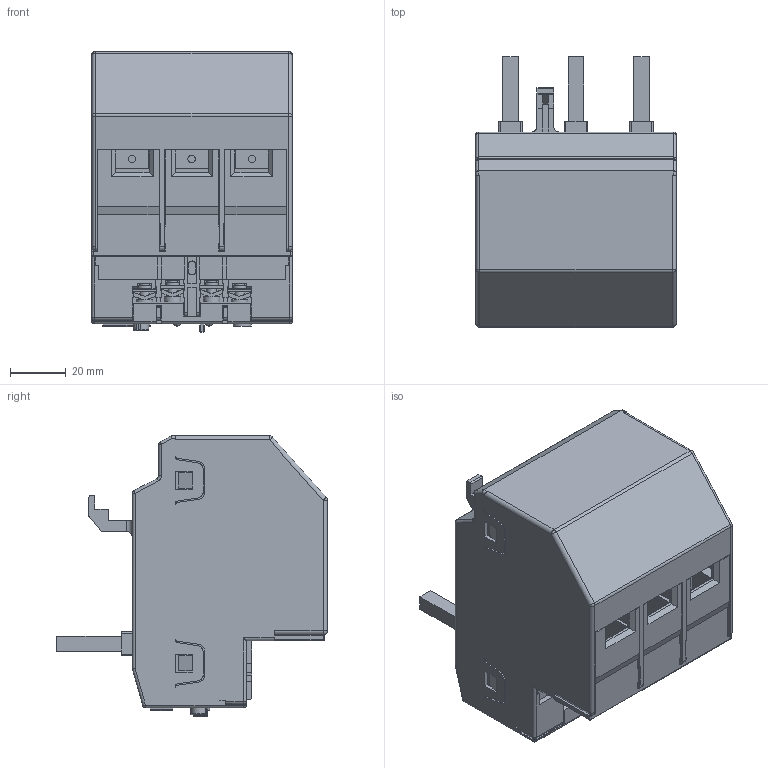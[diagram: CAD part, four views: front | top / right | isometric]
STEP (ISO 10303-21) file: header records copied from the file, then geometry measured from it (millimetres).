
FILE_DESCRIPTION((''),'2;1');
FILE_NAME('NRE8-100_SW0001','2022-03-01T09:14:17',('yeyang'),(''),'CREO PARAMETRIC BY PTC INC, 2020044','CREO PARAMETRIC BY PTC INC, 2020044','');
FILE_SCHEMA(('CONFIG_CONTROL_DESIGN','SHAPE_APPEARANCE_LAYERS_GROUPS'));
Products named in the file (1): NRE8-100_SW0001
Bounding box: 72 x 97.14 x 100.6 mm (x, y, z)
Volume: 269327.4 mm3; surface area: 119998.3 mm2
Topology: 1 solids, 1 shells, 3814 faces, 10824 edges, 7083 vertices
Faces by surface type: plane 3303, cylinder 436, torus 36, sphere 28, bspline 11
Entity records: 150335 total; most frequent: CARTESIAN_POINT 24580, ORIENTED_EDGE 21640, DIRECTION 19141, EDGE_CURVE 10820, VECTOR 9795, LINE 9795, VERTEX_POINT 7083, AXIS2_PLACEMENT_3D 4673
